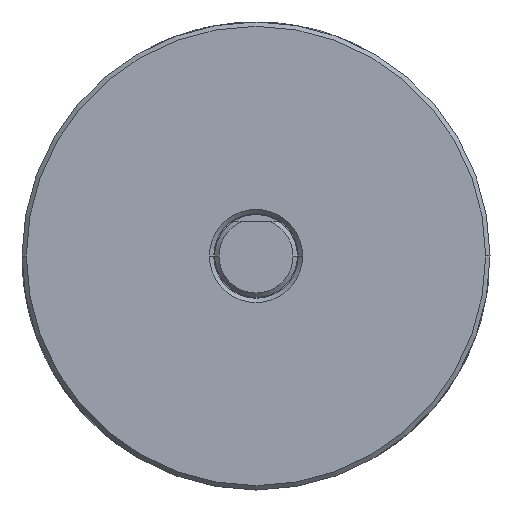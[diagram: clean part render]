
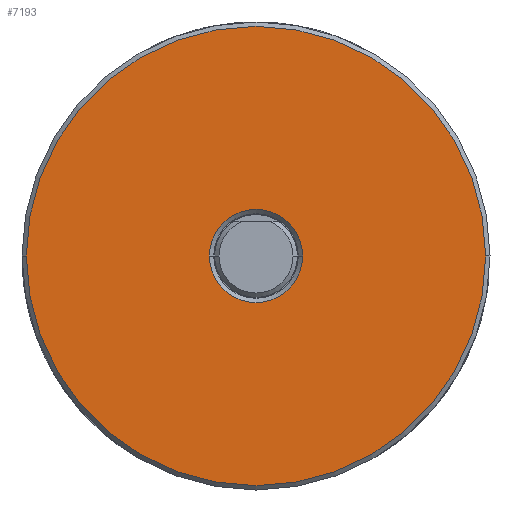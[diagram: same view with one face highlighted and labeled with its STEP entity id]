
A CAD part, left-side view. The second image highlights one B-rep face of the part: STEP entity #7193.
In plain terms, the highlighted planar face has unit normal (-1, 0, 0).
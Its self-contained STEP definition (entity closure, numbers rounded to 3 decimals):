
#5246 = EDGE_CURVE ( 'NONE', #5247, #5248, #9393, .T. ) ;
#5247 = VERTEX_POINT ( 'NONE', #9389 ) ;
#5248 = VERTEX_POINT ( 'NONE', #9388 ) ;
#5401 = VERTEX_POINT ( 'NONE', #9803 ) ;
#5403 = VERTEX_POINT ( 'NONE', #9802 ) ;
#5454 = EDGE_CURVE ( 'NONE', #5403, #5401, #9892, .T. ) ;
#7193 = ADVANCED_FACE ( 'NONE', ( #13231, #13230 ), #13229, .T. ) ;
#7194 = EDGE_LOOP ( 'NONE', ( #7195, #7251 ) ) ;
#7195 = ORIENTED_EDGE ( 'NONE', *, *, #5454, .T. ) ;
#7251 = ORIENTED_EDGE ( 'NONE', *, *, #7252, .T. ) ;
#7252 = EDGE_CURVE ( 'NONE', #5401, #5403, #13338, .T. ) ;
#7253 = EDGE_LOOP ( 'NONE', ( #7254, #7256 ) ) ;
#7254 = ORIENTED_EDGE ( 'NONE', *, *, #7255, .T. ) ;
#7255 = EDGE_CURVE ( 'NONE', #5248, #5247, #13333, .T. ) ;
#7256 = ORIENTED_EDGE ( 'NONE', *, *, #5246, .T. ) ;
#9388 = CARTESIAN_POINT ( 'NONE',  ( 19.05, 26.425, 0. ) ) ;
#9389 = CARTESIAN_POINT ( 'NONE',  ( 19.05, -26.425, 0. ) ) ;
#9390 = DIRECTION ( 'NONE',  ( 0., -1., 0. ) ) ;
#9391 = DIRECTION ( 'NONE',  ( -1., 0., 0. ) ) ;
#9392 = AXIS2_PLACEMENT_3D ( 'NONE', #9399, #9391, #9390 ) ;
#9393 = CIRCLE ( 'NONE', #9392, 26.425 ) ;
#9399 = CARTESIAN_POINT ( 'NONE',  ( 19.05, 0., 0. ) ) ;
#9802 = CARTESIAN_POINT ( 'NONE',  ( 19.05, -5.363, 0. ) ) ;
#9803 = CARTESIAN_POINT ( 'NONE',  ( 19.05, 5.363, 0. ) ) ;
#9888 = DIRECTION ( 'NONE',  ( 0., -1., 0. ) ) ;
#9889 = DIRECTION ( 'NONE',  ( 1., 0., 0. ) ) ;
#9890 = CARTESIAN_POINT ( 'NONE',  ( 19.05, 0., 0. ) ) ;
#9891 = AXIS2_PLACEMENT_3D ( 'NONE', #9890, #9889, #9888 ) ;
#9892 = CIRCLE ( 'NONE', #9891, 5.363 ) ;
#13225 = DIRECTION ( 'NONE',  ( 0., -1., 0. ) ) ;
#13226 = DIRECTION ( 'NONE',  ( -1., 0., 0. ) ) ;
#13227 = CARTESIAN_POINT ( 'NONE',  ( 19.05, 4.763, 0. ) ) ;
#13228 = AXIS2_PLACEMENT_3D ( 'NONE', #13227, #13226, #13225 ) ;
#13229 = PLANE ( 'NONE',  #13228 ) ;
#13230 = FACE_OUTER_BOUND ( 'NONE', #7253, .T. ) ;
#13231 = FACE_BOUND ( 'NONE', #7194, .T. ) ;
#13329 = DIRECTION ( 'NONE',  ( 0., -1., 0. ) ) ;
#13330 = DIRECTION ( 'NONE',  ( -1., 0., 0. ) ) ;
#13331 = CARTESIAN_POINT ( 'NONE',  ( 19.05, 0., 0. ) ) ;
#13332 = AXIS2_PLACEMENT_3D ( 'NONE', #13331, #13330, #13329 ) ;
#13333 = CIRCLE ( 'NONE', #13332, 26.425 ) ;
#13334 = DIRECTION ( 'NONE',  ( 0., -1., 0. ) ) ;
#13335 = DIRECTION ( 'NONE',  ( 1., 0., 0. ) ) ;
#13336 = CARTESIAN_POINT ( 'NONE',  ( 19.05, 0., 0. ) ) ;
#13337 = AXIS2_PLACEMENT_3D ( 'NONE', #13336, #13335, #13334 ) ;
#13338 = CIRCLE ( 'NONE', #13337, 5.363 ) ;
